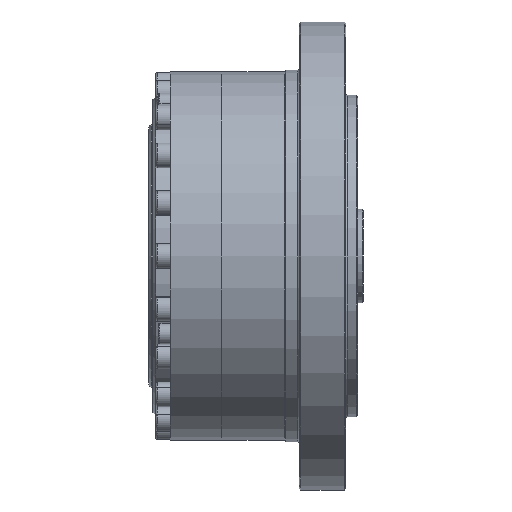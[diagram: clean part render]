
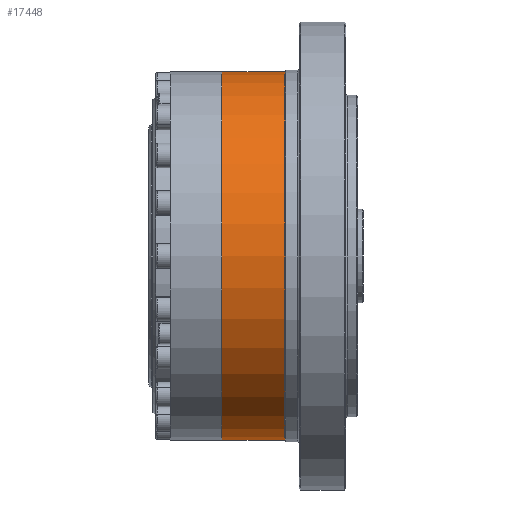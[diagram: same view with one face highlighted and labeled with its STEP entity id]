
A CAD part, front view. The second image highlights one B-rep face of the part: STEP entity #17448.
In plain terms, the highlighted cylindrical face has radius 63 mm (diameter 126 mm), a partial arc.
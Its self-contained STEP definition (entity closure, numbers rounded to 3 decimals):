
#1485 = LINE ( 'NONE', #22488, #7211 ) ;
#1606 = EDGE_LOOP ( 'NONE', ( #13660, #11391, #12974, #24871 ) ) ;
#2137 = DIRECTION ( 'NONE',  ( 1., 0., 0. ) ) ;
#3886 = AXIS2_PLACEMENT_3D ( 'NONE', #23779, #15230, #19615 ) ;
#5793 = DIRECTION ( 'NONE',  ( 1., 0., 0. ) ) ;
#5869 = DIRECTION ( 'NONE',  ( 1., 0., 0. ) ) ;
#6343 = EDGE_CURVE ( 'NONE', #10578, #27316, #1485, .T. ) ;
#6823 = LINE ( 'NONE', #10203, #23465 ) ;
#7061 = CYLINDRICAL_SURFACE ( 'NONE', #3886, 63. ) ;
#7211 = VECTOR ( 'NONE', #7287, 1000. ) ;
#7241 = EDGE_CURVE ( 'NONE', #14678, #23110, #6823, .T. ) ;
#7287 = DIRECTION ( 'NONE',  ( 1., 0., 0. ) ) ;
#9728 = EDGE_CURVE ( 'NONE', #23110, #27316, #17844, .T. ) ;
#10103 = AXIS2_PLACEMENT_3D ( 'NONE', #18785, #5793, #20983 ) ;
#10203 = CARTESIAN_POINT ( 'NONE',  ( 80.512, 0., 63. ) ) ;
#10578 = VERTEX_POINT ( 'NONE', #13033 ) ;
#11391 = ORIENTED_EDGE ( 'NONE', *, *, #14388, .T. ) ;
#11829 = CIRCLE ( 'NONE', #20711, 63. ) ;
#12974 = ORIENTED_EDGE ( 'NONE', *, *, #6343, .T. ) ;
#13033 = CARTESIAN_POINT ( 'NONE',  ( 27.911, 0., -63. ) ) ;
#13501 = FACE_OUTER_BOUND ( 'NONE', #1606, .T. ) ;
#13660 = ORIENTED_EDGE ( 'NONE', *, *, #7241, .F. ) ;
#14388 = EDGE_CURVE ( 'NONE', #14678, #10578, #11829, .T. ) ;
#14678 = VERTEX_POINT ( 'NONE', #22498 ) ;
#15083 = CARTESIAN_POINT ( 'NONE',  ( 27.911, 0., 0. ) ) ;
#15230 = DIRECTION ( 'NONE',  ( 1., 0., 0. ) ) ;
#17283 = DIRECTION ( 'NONE',  ( 0., 0., -1. ) ) ;
#17448 = ADVANCED_FACE ( 'NONE', ( #13501 ), #7061, .T. ) ;
#17566 = CARTESIAN_POINT ( 'NONE',  ( 49.411, 0., 63. ) ) ;
#17844 = CIRCLE ( 'NONE', #10103, 63. ) ;
#18785 = CARTESIAN_POINT ( 'NONE',  ( 49.411, 0., 0. ) ) ;
#19615 = DIRECTION ( 'NONE',  ( 0., 0., -1. ) ) ;
#20711 = AXIS2_PLACEMENT_3D ( 'NONE', #15083, #2137, #17283 ) ;
#20983 = DIRECTION ( 'NONE',  ( 0., 0., -1. ) ) ;
#21132 = CARTESIAN_POINT ( 'NONE',  ( 49.411, 0., -63. ) ) ;
#22488 = CARTESIAN_POINT ( 'NONE',  ( 80.512, 0., -63. ) ) ;
#22498 = CARTESIAN_POINT ( 'NONE',  ( 27.911, 0., 63. ) ) ;
#23110 = VERTEX_POINT ( 'NONE', #17566 ) ;
#23465 = VECTOR ( 'NONE', #5869, 1000. ) ;
#23779 = CARTESIAN_POINT ( 'NONE',  ( 80.512, 0., 0. ) ) ;
#24871 = ORIENTED_EDGE ( 'NONE', *, *, #9728, .F. ) ;
#27316 = VERTEX_POINT ( 'NONE', #21132 ) ;
